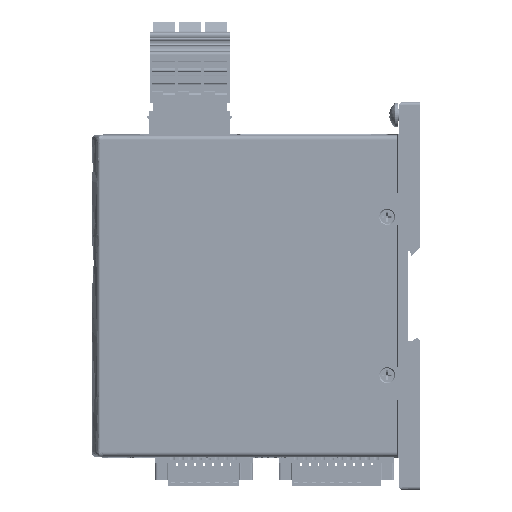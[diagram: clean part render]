
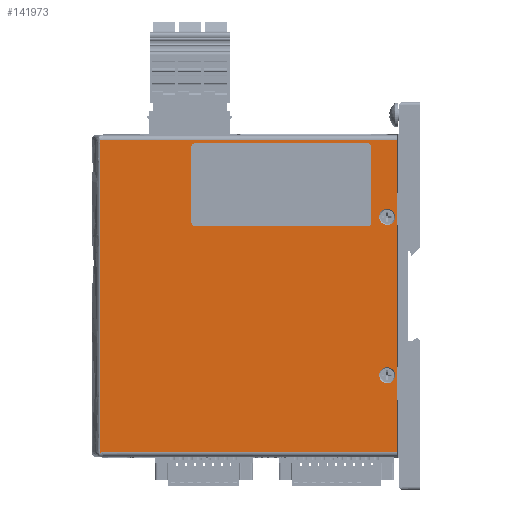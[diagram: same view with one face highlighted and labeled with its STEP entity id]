
A CAD part, left-side view. The second image highlights one B-rep face of the part: STEP entity #141973.
In plain terms, the highlighted planar face has unit normal (-1, 0, 0) as drawn and (0, 0, -1) by its records, which use the part's own axes.
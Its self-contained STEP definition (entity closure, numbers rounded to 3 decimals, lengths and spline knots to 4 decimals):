
#1079=ELLIPSE('',#150653,0.05,0.05);
#1081=ELLIPSE('',#150657,0.05,0.05);
#1084=ELLIPSE('',#150663,0.05,0.05);
#1085=ELLIPSE('',#150666,0.05,0.05);
#3559=CIRCLE('',#150701,0.124);
#3561=CIRCLE('',#150705,0.124);
#6998=FACE_BOUND('',#17445,.T.);
#6999=FACE_BOUND('',#17446,.T.);
#7000=FACE_BOUND('',#17447,.T.);
#9494=FACE_OUTER_BOUND('',#17444,.T.);
#17444=EDGE_LOOP('',(#102245,#102246,#102247,#102248,#102249,#102250,#102251,
#102252));
#17445=EDGE_LOOP('',(#102253,#102254,#102255,#102256,#102257,#102258,#102259,
#102260));
#17446=EDGE_LOOP('',(#102261));
#17447=EDGE_LOOP('',(#102262));
#27455=LINE('',#222051,#43079);
#27461=LINE('',#222072,#43085);
#27464=LINE('',#222080,#43088);
#27466=LINE('',#222085,#43090);
#27497=LINE('',#222179,#43121);
#27720=LINE('',#223950,#43344);
#27721=LINE('',#224002,#43345);
#27723=LINE('',#224006,#43347);
#43079=VECTOR('',#168404,0.3937);
#43085=VECTOR('',#168424,0.3937);
#43088=VECTOR('',#168433,0.3937);
#43090=VECTOR('',#168441,0.3937);
#43121=VECTOR('',#168560,0.3937);
#43344=VECTOR('',#169227,0.3937);
#43345=VECTOR('',#169230,0.3937);
#43347=VECTOR('',#169236,0.3937);
#55061=B_SPLINE_CURVE_WITH_KNOTS('',3,(#211023,#211024,#211025,#211026),
 .UNSPECIFIED.,.F.,.F.,(4,4),(0.5,1.),.UNSPECIFIED.);
#55063=B_SPLINE_CURVE_WITH_KNOTS('',3,(#211073,#211074,#211075,#211076),
 .UNSPECIFIED.,.F.,.F.,(4,4),(0.,0.5),.UNSPECIFIED.);
#55077=B_SPLINE_CURVE_WITH_KNOTS('',3,(#211508,#211509,#211510,#211511),
 .UNSPECIFIED.,.F.,.F.,(4,4),(0.5,1.),.UNSPECIFIED.);
#55079=B_SPLINE_CURVE_WITH_KNOTS('',3,(#211583,#211584,#211585,#211586),
 .UNSPECIFIED.,.F.,.F.,(4,4),(0.,0.5),.UNSPECIFIED.);
#58265=VERTEX_POINT('',#211015);
#58266=VERTEX_POINT('',#211022);
#58268=VERTEX_POINT('',#211071);
#58285=VERTEX_POINT('',#211500);
#58286=VERTEX_POINT('',#211507);
#58288=VERTEX_POINT('',#211581);
#59562=VERTEX_POINT('',#222041);
#59563=VERTEX_POINT('',#222043);
#59565=VERTEX_POINT('',#222049);
#59568=VERTEX_POINT('',#222056);
#59569=VERTEX_POINT('',#222058);
#59573=VERTEX_POINT('',#222071);
#59574=VERTEX_POINT('',#222075);
#59575=VERTEX_POINT('',#222079);
#59583=VERTEX_POINT('',#222143);
#59585=VERTEX_POINT('',#222151);
#59593=VERTEX_POINT('',#222176);
#59594=VERTEX_POINT('',#222178);
#73230=EDGE_CURVE('',#58265,#58266,#55061,.T.);
#73234=EDGE_CURVE('',#58268,#58265,#55063,.T.);
#73256=EDGE_CURVE('',#58285,#58286,#55077,.T.);
#73260=EDGE_CURVE('',#58288,#58285,#55079,.T.);
#75083=EDGE_CURVE('',#59562,#59563,#1079,.T.);
#75087=EDGE_CURVE('',#59562,#59565,#27455,.T.);
#75090=EDGE_CURVE('',#59568,#59569,#1081,.T.);
#75097=EDGE_CURVE('',#59573,#59569,#27461,.T.);
#75099=EDGE_CURVE('',#59573,#59574,#1084,.T.);
#75101=EDGE_CURVE('',#59575,#59574,#27464,.T.);
#75103=EDGE_CURVE('',#59575,#59565,#1085,.T.);
#75104=EDGE_CURVE('',#59568,#59563,#27466,.T.);
#75129=EDGE_CURVE('',#59583,#59583,#3559,.T.);
#75133=EDGE_CURVE('',#59585,#59585,#3561,.T.);
#75147=EDGE_CURVE('',#59593,#59594,#27497,.T.);
#75495=EDGE_CURVE('',#58266,#58288,#27720,.T.);
#75496=EDGE_CURVE('',#59594,#58268,#27721,.T.);
#75498=EDGE_CURVE('',#58286,#59593,#27723,.T.);
#102245=ORIENTED_EDGE('',*,*,#75147,.F.);
#102246=ORIENTED_EDGE('',*,*,#75498,.F.);
#102247=ORIENTED_EDGE('',*,*,#73256,.F.);
#102248=ORIENTED_EDGE('',*,*,#73260,.F.);
#102249=ORIENTED_EDGE('',*,*,#75495,.F.);
#102250=ORIENTED_EDGE('',*,*,#73230,.F.);
#102251=ORIENTED_EDGE('',*,*,#73234,.F.);
#102252=ORIENTED_EDGE('',*,*,#75496,.F.);
#102253=ORIENTED_EDGE('',*,*,#75097,.T.);
#102254=ORIENTED_EDGE('',*,*,#75090,.F.);
#102255=ORIENTED_EDGE('',*,*,#75104,.T.);
#102256=ORIENTED_EDGE('',*,*,#75083,.F.);
#102257=ORIENTED_EDGE('',*,*,#75087,.T.);
#102258=ORIENTED_EDGE('',*,*,#75103,.F.);
#102259=ORIENTED_EDGE('',*,*,#75101,.T.);
#102260=ORIENTED_EDGE('',*,*,#75099,.F.);
#102261=ORIENTED_EDGE('',*,*,#75129,.T.);
#102262=ORIENTED_EDGE('',*,*,#75133,.T.);
#133844=PLANE('',#150939);
#141973=ADVANCED_FACE('',(#9494,#6998,#6999,#7000),#133844,.F.);
#150653=AXIS2_PLACEMENT_3D('',#222044,#168397,#168398);
#150657=AXIS2_PLACEMENT_3D('',#222059,#168410,#168411);
#150663=AXIS2_PLACEMENT_3D('',#222076,#168428,#168429);
#150666=AXIS2_PLACEMENT_3D('',#222083,#168437,#168438);
#150701=AXIS2_PLACEMENT_3D('',#222144,#168525,#168526);
#150705=AXIS2_PLACEMENT_3D('',#222152,#168535,#168536);
#150939=AXIS2_PLACEMENT_3D('',#224064,#169241,#169242);
#168397=DIRECTION('center_axis',(0.,0.,-1.));
#168398=DIRECTION('ref_axis',(0.707,-0.707,0.));
#168404=DIRECTION('',(0.,1.,0.));
#168410=DIRECTION('center_axis',(0.,0.,-1.));
#168411=DIRECTION('ref_axis',(-0.707,-0.707,0.));
#168424=DIRECTION('',(0.,-1.,0.));
#168428=DIRECTION('center_axis',(0.,0.,-1.));
#168429=DIRECTION('ref_axis',(-0.707,0.707,0.));
#168433=DIRECTION('',(-1.,0.,0.));
#168437=DIRECTION('center_axis',(0.,0.,-1.));
#168438=DIRECTION('ref_axis',(0.707,0.707,0.));
#168441=DIRECTION('',(1.,0.,0.));
#168525=DIRECTION('center_axis',(0.,0.,1.));
#168526=DIRECTION('ref_axis',(-1.,0.,0.));
#168535=DIRECTION('center_axis',(0.,0.,1.));
#168536=DIRECTION('ref_axis',(-1.,0.,0.));
#168560=DIRECTION('',(1.,0.,0.));
#169227=DIRECTION('',(-1.,0.,0.));
#169230=DIRECTION('',(0.,1.,0.));
#169236=DIRECTION('',(0.,-1.,0.));
#169241=DIRECTION('center_axis',(0.,0.,1.));
#169242=DIRECTION('ref_axis',(1.,0.,0.));
#211015=CARTESIAN_POINT('',(-0.0673,4.5777,0.));
#211022=CARTESIAN_POINT('',(-0.0743,4.5989,0.));
#211023=CARTESIAN_POINT('Ctrl Pts',(-0.0673,4.5777,
0.));
#211024=CARTESIAN_POINT('Ctrl Pts',(-0.0649,4.5895,
0.));
#211025=CARTESIAN_POINT('Ctrl Pts',(-0.0649,4.5989,
0.));
#211026=CARTESIAN_POINT('Ctrl Pts',(-0.0743,4.5989,
0.));
#211071=CARTESIAN_POINT('',(-0.0743,4.5422,0.));
#211073=CARTESIAN_POINT('Ctrl Pts',(-0.0743,4.5422,
0.));
#211074=CARTESIAN_POINT('Ctrl Pts',(-0.0743,4.5517,
0.));
#211075=CARTESIAN_POINT('Ctrl Pts',(-0.0696,4.5658,
0.));
#211076=CARTESIAN_POINT('Ctrl Pts',(-0.0673,4.5777,
0.));
#211500=CARTESIAN_POINT('',(-4.9067,4.5777,0.));
#211507=CARTESIAN_POINT('',(-4.8997,4.5422,0.));
#211508=CARTESIAN_POINT('Ctrl Pts',(-4.9067,4.5777,
0.));
#211509=CARTESIAN_POINT('Ctrl Pts',(-4.9044,4.5658,
0.));
#211510=CARTESIAN_POINT('Ctrl Pts',(-4.8997,4.5517,
0.));
#211511=CARTESIAN_POINT('Ctrl Pts',(-4.8997,4.5422,
0.));
#211581=CARTESIAN_POINT('',(-4.8997,4.5989,0.));
#211583=CARTESIAN_POINT('Ctrl Pts',(-4.8997,4.5989,
0.));
#211584=CARTESIAN_POINT('Ctrl Pts',(-4.9091,4.5989,
0.));
#211585=CARTESIAN_POINT('Ctrl Pts',(-4.9091,4.5895,
0.));
#211586=CARTESIAN_POINT('Ctrl Pts',(-4.9067,4.5777,
0.));
#222041=CARTESIAN_POINT('',(-3.5697,0.45,0.));
#222043=CARTESIAN_POINT('',(-3.6196,0.4,0.));
#222044=CARTESIAN_POINT('Origin',(-3.6197,0.45,0.));
#222049=CARTESIAN_POINT('',(-3.5697,3.13,0.));
#222051=CARTESIAN_POINT('',(-3.5697,2.7398,0.));
#222056=CARTESIAN_POINT('',(-4.7997,0.4,0.));
#222058=CARTESIAN_POINT('',(-4.8497,0.45,0.));
#222059=CARTESIAN_POINT('Origin',(-4.7996,0.45,0.));
#222071=CARTESIAN_POINT('',(-4.8497,3.13,0.));
#222072=CARTESIAN_POINT('',(-4.8497,1.3498,0.));
#222075=CARTESIAN_POINT('',(-4.7997,3.18,0.));
#222076=CARTESIAN_POINT('Origin',(-4.7996,3.13,0.));
#222079=CARTESIAN_POINT('',(-3.6196,3.18,0.));
#222080=CARTESIAN_POINT('',(-3.6683,3.18,0.));
#222083=CARTESIAN_POINT('Origin',(-3.6197,3.13,0.));
#222085=CARTESIAN_POINT('',(-3.0283,0.4,0.));
#222143=CARTESIAN_POINT('',(-3.588,0.152,0.));
#222144=CARTESIAN_POINT('Origin',(-3.712,0.152,0.));
#222151=CARTESIAN_POINT('',(-1.138,0.152,0.));
#222152=CARTESIAN_POINT('Origin',(-1.262,0.152,0.));
#222176=CARTESIAN_POINT('',(-4.8997,0.,0.));
#222178=CARTESIAN_POINT('',(-0.0743,0.,0.));
#222179=CARTESIAN_POINT('',(-4.974,0.,0.));
#223950=CARTESIAN_POINT('',(0.,4.5989,0.));
#224002=CARTESIAN_POINT('',(-0.0743,3.4493,0.));
#224006=CARTESIAN_POINT('',(-4.8997,1.1498,0.));
#224064=CARTESIAN_POINT('Origin',(-2.487,2.2995,0.));
